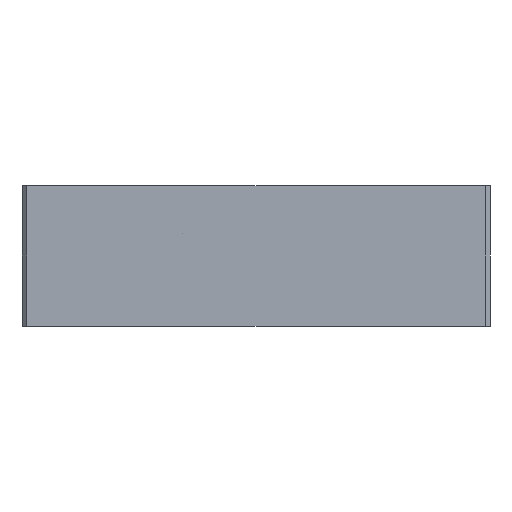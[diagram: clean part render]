
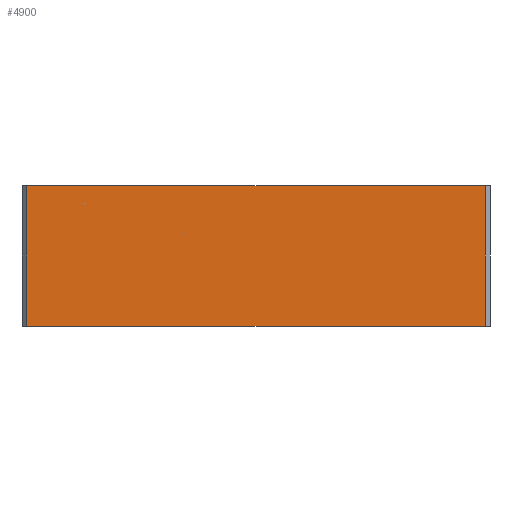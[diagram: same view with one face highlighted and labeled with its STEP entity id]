
A CAD part, front view. The second image highlights one B-rep face of the part: STEP entity #4900.
In plain terms, the highlighted planar face has unit normal (0, -1, 0).
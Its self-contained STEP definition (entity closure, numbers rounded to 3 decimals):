
#178 = DIRECTION ( 'NONE',  ( 0., 1., 0. ) ) ;
#214 = CARTESIAN_POINT ( 'NONE',  ( -25., -25., 7.5 ) ) ;
#217 = VECTOR ( 'NONE', #6688, 1000. ) ;
#404 = VECTOR ( 'NONE', #4212, 1000. ) ;
#439 = EDGE_CURVE ( 'NONE', #4716, #6800, #742, .T. ) ;
#624 = CARTESIAN_POINT ( 'NONE',  ( -25., -25., 7.5 ) ) ;
#742 = LINE ( 'NONE', #624, #217 ) ;
#1237 = CARTESIAN_POINT ( 'NONE',  ( -24.5, -25., 7.5 ) ) ;
#1288 = EDGE_CURVE ( 'NONE', #5963, #6761, #2160, .T. ) ;
#1317 = ORIENTED_EDGE ( 'NONE', *, *, #1288, .T. ) ;
#1906 = CARTESIAN_POINT ( 'NONE',  ( -24.5, -25., -7.5 ) ) ;
#2058 = FACE_OUTER_BOUND ( 'NONE', #5853, .T. ) ;
#2067 = EDGE_CURVE ( 'NONE', #6761, #6800, #4772, .T. ) ;
#2137 = PLANE ( 'NONE',  #7167 ) ;
#2160 = LINE ( 'NONE', #4914, #404 ) ;
#2352 = DIRECTION ( 'NONE',  ( 0., 0., -1. ) ) ;
#2947 = LINE ( 'NONE', #3493, #6532 ) ;
#3027 = ORIENTED_EDGE ( 'NONE', *, *, #439, .F. ) ;
#3493 = CARTESIAN_POINT ( 'NONE',  ( -24.5, -25., 7.5 ) ) ;
#4212 = DIRECTION ( 'NONE',  ( 1., 0., 0. ) ) ;
#4332 = EDGE_CURVE ( 'NONE', #4716, #5963, #2947, .T. ) ;
#4459 = DIRECTION ( 'NONE',  ( -1., 0., 0. ) ) ;
#4716 = VERTEX_POINT ( 'NONE', #1237 ) ;
#4772 = LINE ( 'NONE', #5370, #5163 ) ;
#4900 = ADVANCED_FACE ( 'NONE', ( #2058 ), #2137, .F. ) ;
#4914 = CARTESIAN_POINT ( 'NONE',  ( -25., -25., -7.5 ) ) ;
#5163 = VECTOR ( 'NONE', #5326, 1000. ) ;
#5276 = ORIENTED_EDGE ( 'NONE', *, *, #4332, .T. ) ;
#5326 = DIRECTION ( 'NONE',  ( 0., 0., 1. ) ) ;
#5370 = CARTESIAN_POINT ( 'NONE',  ( 24.5, -25., 7.5 ) ) ;
#5853 = EDGE_LOOP ( 'NONE', ( #3027, #5276, #1317, #7120 ) ) ;
#5963 = VERTEX_POINT ( 'NONE', #1906 ) ;
#6532 = VECTOR ( 'NONE', #2352, 1000. ) ;
#6688 = DIRECTION ( 'NONE',  ( 1., 0., 0. ) ) ;
#6761 = VERTEX_POINT ( 'NONE', #7725 ) ;
#6800 = VERTEX_POINT ( 'NONE', #7766 ) ;
#7120 = ORIENTED_EDGE ( 'NONE', *, *, #2067, .T. ) ;
#7167 = AXIS2_PLACEMENT_3D ( 'NONE', #214, #178, #4459 ) ;
#7725 = CARTESIAN_POINT ( 'NONE',  ( 24.5, -25., -7.5 ) ) ;
#7766 = CARTESIAN_POINT ( 'NONE',  ( 24.5, -25., 7.5 ) ) ;
